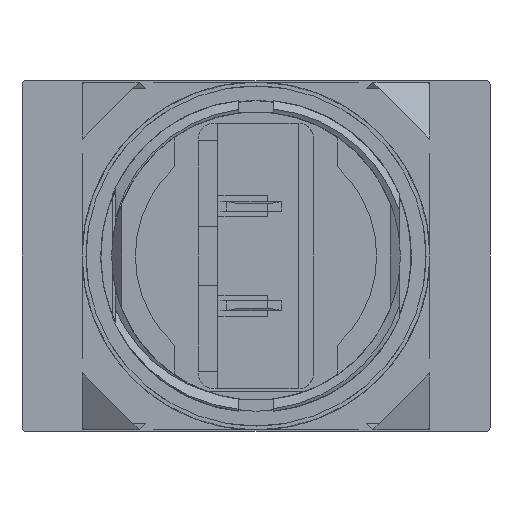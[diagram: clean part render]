
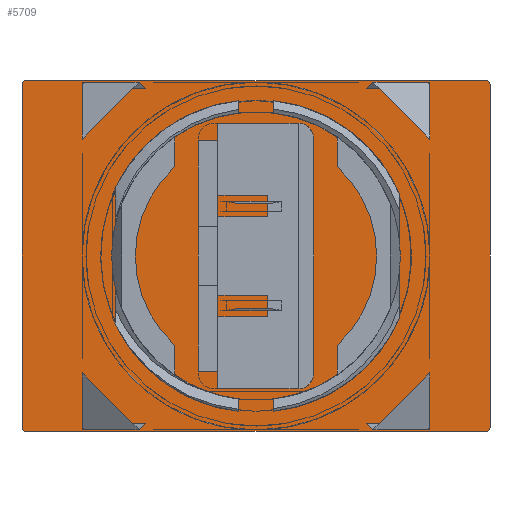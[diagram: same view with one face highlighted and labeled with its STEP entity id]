
A CAD part, front view. The second image highlights one B-rep face of the part: STEP entity #5709.
In plain terms, the highlighted planar face has unit normal (0, -1, 0).
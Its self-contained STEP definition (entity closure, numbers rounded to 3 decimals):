
#2104=CARTESIAN_POINT('',(11.775,0.,8.775));
#2105=DIRECTION('',(0.,1.,0.));
#2106=DIRECTION('',(0.,0.,1.));
#2107=AXIS2_PLACEMENT_3D('',#2104,#2105,#2106);
#2109=DIRECTION('',(0.,0.,-1.));
#2110=VECTOR('',#2109,17.55);
#2111=CARTESIAN_POINT('',(11.975,0.,8.775));
#2112=LINE('',#2111,#2110);
#2113=CARTESIAN_POINT('',(11.775,0.,-8.775));
#2114=DIRECTION('',(0.,1.,0.));
#2115=DIRECTION('',(1.,0.,0.));
#2116=AXIS2_PLACEMENT_3D('',#2113,#2114,#2115);
#2118=DIRECTION('',(-1.,0.,0.));
#2119=VECTOR('',#2118,23.55);
#2120=CARTESIAN_POINT('',(11.775,0.,-8.975));
#2121=LINE('',#2120,#2119);
#2122=CARTESIAN_POINT('',(-11.775,0.,-8.775));
#2123=DIRECTION('',(0.,1.,0.));
#2124=DIRECTION('',(0.,0.,-1.));
#2125=AXIS2_PLACEMENT_3D('',#2122,#2123,#2124);
#2127=DIRECTION('',(0.,0.,1.));
#2128=VECTOR('',#2127,17.55);
#2129=CARTESIAN_POINT('',(-11.975,0.,-8.775));
#2130=LINE('',#2129,#2128);
#2131=CARTESIAN_POINT('',(-11.775,0.,8.775));
#2132=DIRECTION('',(0.,1.,0.));
#2133=DIRECTION('',(-1.,0.,0.));
#2134=AXIS2_PLACEMENT_3D('',#2131,#2132,#2133);
#2136=DIRECTION('',(1.,0.,0.));
#2137=VECTOR('',#2136,23.55);
#2138=CARTESIAN_POINT('',(-11.775,0.,8.975));
#2139=LINE('',#2138,#2137);
#3721=CARTESIAN_POINT('',(11.975,0.,8.775));
#3723=VERTEX_POINT('',#3721);
#3724=CARTESIAN_POINT('',(11.775,0.,8.975));
#3725=VERTEX_POINT('',#3724);
#3729=CARTESIAN_POINT('',(11.775,0.,-8.975));
#3731=VERTEX_POINT('',#3729);
#3732=CARTESIAN_POINT('',(11.975,0.,-8.775));
#3733=VERTEX_POINT('',#3732);
#3737=CARTESIAN_POINT('',(-11.775,0.,8.975));
#3739=VERTEX_POINT('',#3737);
#3740=CARTESIAN_POINT('',(-11.975,0.,8.775));
#3741=VERTEX_POINT('',#3740);
#3745=CARTESIAN_POINT('',(-11.975,0.,-8.775));
#3747=VERTEX_POINT('',#3745);
#3748=CARTESIAN_POINT('',(-11.775,0.,-8.975));
#3749=VERTEX_POINT('',#3748);
#5686=CARTESIAN_POINT('',(0.,0.,0.));
#5687=DIRECTION('',(0.,1.,0.));
#5688=DIRECTION('',(1.,0.,0.));
#5689=AXIS2_PLACEMENT_3D('',#5686,#5687,#5688);
#5690=PLANE('',#5689);
#5692=ORIENTED_EDGE('',*,*,#5691,.T.);
#5694=ORIENTED_EDGE('',*,*,#5693,.T.);
#5696=ORIENTED_EDGE('',*,*,#5695,.T.);
#5698=ORIENTED_EDGE('',*,*,#5697,.T.);
#5700=ORIENTED_EDGE('',*,*,#5699,.T.);
#5702=ORIENTED_EDGE('',*,*,#5701,.T.);
#5704=ORIENTED_EDGE('',*,*,#5703,.T.);
#5706=ORIENTED_EDGE('',*,*,#5705,.T.);
#5707=EDGE_LOOP('',(#5692,#5694,#5696,#5698,#5700,#5702,#5704,#5706));
#5708=FACE_OUTER_BOUND('',#5707,.F.);
#5709=ADVANCED_FACE('',(#5708),#5690,.F.);
#2108=CIRCLE('',#2107,0.2);
#2117=CIRCLE('',#2116,0.2);
#2126=CIRCLE('',#2125,0.2);
#2135=CIRCLE('',#2134,0.2);
#5691=EDGE_CURVE('',#3725,#3723,#2108,.T.);
#5693=EDGE_CURVE('',#3723,#3733,#2112,.T.);
#5695=EDGE_CURVE('',#3733,#3731,#2117,.T.);
#5697=EDGE_CURVE('',#3731,#3749,#2121,.T.);
#5699=EDGE_CURVE('',#3749,#3747,#2126,.T.);
#5701=EDGE_CURVE('',#3747,#3741,#2130,.T.);
#5703=EDGE_CURVE('',#3741,#3739,#2135,.T.);
#5705=EDGE_CURVE('',#3739,#3725,#2139,.T.);
